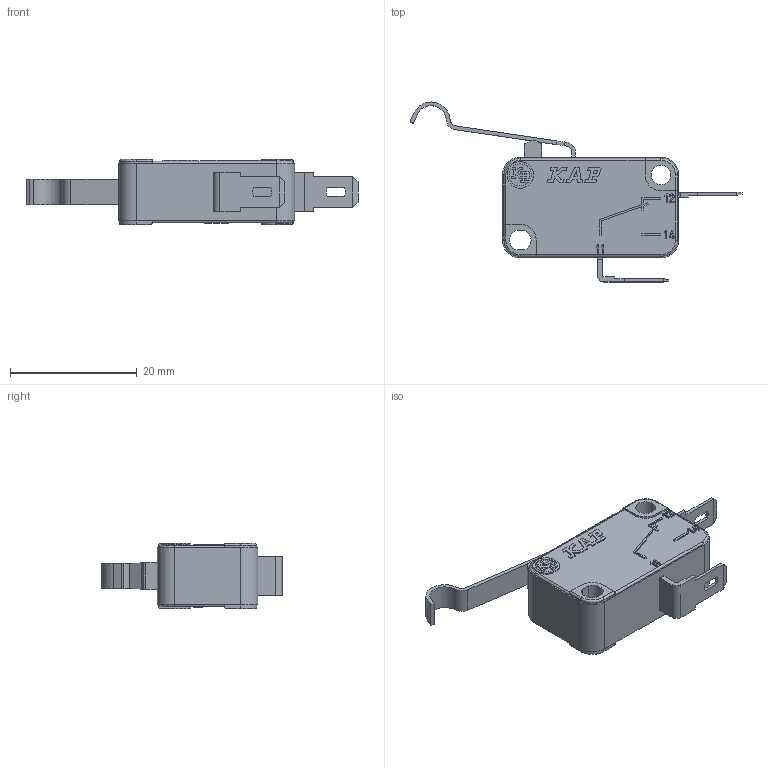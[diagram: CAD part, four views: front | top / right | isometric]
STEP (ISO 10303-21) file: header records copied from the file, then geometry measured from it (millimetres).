
FILE_DESCRIPTION(('Microrutor Miniatura Alavanca c/ Roldana Simulada NF'),'2;1');
FILE_NAME('E:\WorkFolder\Bibl\3DWeb\kp_mv_mv$d2ba$_step.stp','2022-08-17T16:01:31',('DIE'),('KAP Componentes Eletricos Ltda.'),'Autodesk Inventor 2011','Autodesk Inventor 2011','Direitos reservados. Proibido reproducao, cedencia ou revelacao de conteudo a terceiros, salvo com autorizacao.');
FILE_SCHEMA(('AUTOMOTIVE_DESIGN { 1 0 10303 214 1 1 1 1 }'));
Length unit declared in the file: millimetre
Products named in the file (1): Part4
Bounding box: 52.42 x 28.43 x 10.3 mm (x, y, z)
Volume: 4246.7 mm3; surface area: 2482.8 mm2
Topology: 1 solids, 1 shells, 401 faces, 1078 edges, 711 vertices
Faces by surface type: plane 321, cylinder 72, torus 8
Full cylindrical faces by diameter (mm): 3.1 x1, 4.2 x1
Entity records: 12497 total; most frequent: CARTESIAN_POINT 2187, ORIENTED_EDGE 2150, DIRECTION 2038, EDGE_CURVE 1075, VECTOR 916, LINE 916, VERTEX_POINT 710, AXIS2_PLACEMENT_3D 561
